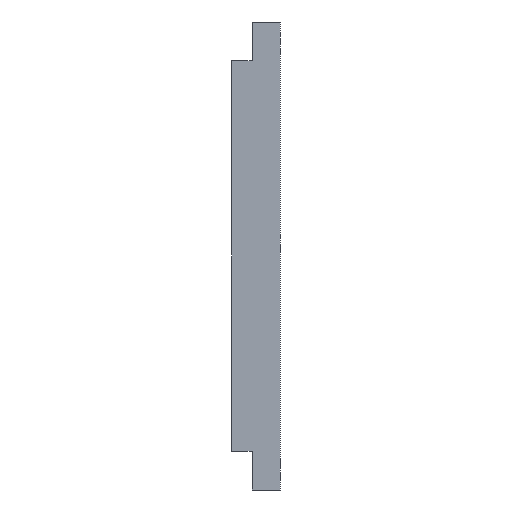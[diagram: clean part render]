
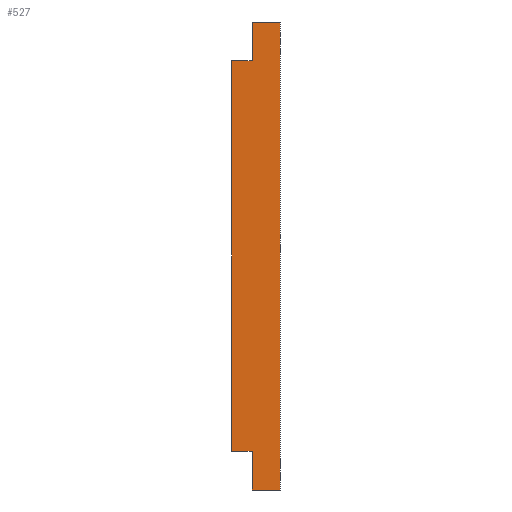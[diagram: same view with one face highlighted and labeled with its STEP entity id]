
A CAD part, left-side view. The second image highlights one B-rep face of the part: STEP entity #527.
In plain terms, the highlighted planar face has unit normal (-1, 0, 0).
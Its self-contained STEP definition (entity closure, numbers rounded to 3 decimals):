
#3 = CARTESIAN_POINT ( 'NONE',  ( -100., 10.3, -41.7 ) ) ;
#7 = ORIENTED_EDGE ( 'NONE', *, *, #2168, .F. ) ;
#38 = DIRECTION ( 'NONE',  ( 0., -1., 0. ) ) ;
#39 = DIRECTION ( 'NONE',  ( 0., 0., 1. ) ) ;
#82 = LINE ( 'NONE', #343, #1041 ) ;
#89 = ORIENTED_EDGE ( 'NONE', *, *, #1534, .T. ) ;
#92 = LINE ( 'NONE', #824, #1562 ) ;
#98 = EDGE_CURVE ( 'NONE', #1292, #328, #2531, .T. ) ;
#177 = VECTOR ( 'NONE', #1412, 1000. ) ;
#235 = DIRECTION ( 'NONE',  ( 0., 0., 1. ) ) ;
#237 = DIRECTION ( 'NONE',  ( 1., 0., 0. ) ) ;
#241 = ORIENTED_EDGE ( 'NONE', *, *, #2399, .T. ) ;
#328 = VERTEX_POINT ( 'NONE', #2268 ) ;
#343 = CARTESIAN_POINT ( 'NONE',  ( -100., 6., -50. ) ) ;
#419 = CARTESIAN_POINT ( 'NONE',  ( -100., 6., 50. ) ) ;
#421 = EDGE_CURVE ( 'NONE', #947, #1587, #92, .T. ) ;
#423 = CARTESIAN_POINT ( 'NONE',  ( -100., 6., 50. ) ) ;
#437 = ORIENTED_EDGE ( 'NONE', *, *, #98, .F. ) ;
#453 = LINE ( 'NONE', #419, #1833 ) ;
#486 = VECTOR ( 'NONE', #689, 1000. ) ;
#527 = ADVANCED_FACE ( 'NONE', ( #633 ), #853, .F. ) ;
#560 = VERTEX_POINT ( 'NONE', #663 ) ;
#626 = AXIS2_PLACEMENT_3D ( 'NONE', #423, #237, #1826 ) ;
#633 = FACE_OUTER_BOUND ( 'NONE', #2065, .T. ) ;
#635 = CARTESIAN_POINT ( 'NONE',  ( -100., 6., 50. ) ) ;
#638 = CARTESIAN_POINT ( 'NONE',  ( -100., 6., -50. ) ) ;
#647 = VERTEX_POINT ( 'NONE', #638 ) ;
#663 = CARTESIAN_POINT ( 'NONE',  ( -100., 0., -50. ) ) ;
#689 = DIRECTION ( 'NONE',  ( 0., -1., 0. ) ) ;
#695 = CARTESIAN_POINT ( 'NONE',  ( -100., 10.3, 41.7 ) ) ;
#818 = CARTESIAN_POINT ( 'NONE',  ( -100., 6., -41.7 ) ) ;
#824 = CARTESIAN_POINT ( 'NONE',  ( -100., 6., 50. ) ) ;
#853 = PLANE ( 'NONE',  #626 ) ;
#940 = DIRECTION ( 'NONE',  ( 0., -1., 0. ) ) ;
#947 = VERTEX_POINT ( 'NONE', #2027 ) ;
#960 = DIRECTION ( 'NONE',  ( 0., 0., 1. ) ) ;
#971 = LINE ( 'NONE', #695, #486 ) ;
#991 = DIRECTION ( 'NONE',  ( 0., 0., 1. ) ) ;
#1030 = CARTESIAN_POINT ( 'NONE',  ( -100., 6., 50. ) ) ;
#1039 = CARTESIAN_POINT ( 'NONE',  ( -100., 0., 50. ) ) ;
#1041 = VECTOR ( 'NONE', #940, 1000. ) ;
#1177 = VECTOR ( 'NONE', #235, 1000. ) ;
#1187 = ORIENTED_EDGE ( 'NONE', *, *, #1971, .F. ) ;
#1292 = VERTEX_POINT ( 'NONE', #1551 ) ;
#1350 = LINE ( 'NONE', #635, #2578 ) ;
#1354 = ORIENTED_EDGE ( 'NONE', *, *, #1934, .F. ) ;
#1412 = DIRECTION ( 'NONE',  ( 0., -1., 0. ) ) ;
#1442 = EDGE_CURVE ( 'NONE', #1292, #1455, #2436, .T. ) ;
#1455 = VERTEX_POINT ( 'NONE', #818 ) ;
#1521 = CARTESIAN_POINT ( 'NONE',  ( -100., 0., 50. ) ) ;
#1534 = EDGE_CURVE ( 'NONE', #560, #2275, #1998, .T. ) ;
#1551 = CARTESIAN_POINT ( 'NONE',  ( -100., 10.3, -41.7 ) ) ;
#1555 = ORIENTED_EDGE ( 'NONE', *, *, #1442, .T. ) ;
#1562 = VECTOR ( 'NONE', #39, 1000. ) ;
#1587 = VERTEX_POINT ( 'NONE', #1030 ) ;
#1726 = VECTOR ( 'NONE', #960, 1000. ) ;
#1826 = DIRECTION ( 'NONE',  ( 0., 0., -1. ) ) ;
#1833 = VECTOR ( 'NONE', #991, 1000. ) ;
#1934 = EDGE_CURVE ( 'NONE', #1587, #2275, #1350, .T. ) ;
#1971 = EDGE_CURVE ( 'NONE', #647, #1455, #453, .T. ) ;
#1998 = LINE ( 'NONE', #1039, #1177 ) ;
#2027 = CARTESIAN_POINT ( 'NONE',  ( -100., 6., 41.7 ) ) ;
#2065 = EDGE_LOOP ( 'NONE', ( #89, #1354, #2498, #7, #437, #1555, #1187, #241 ) ) ;
#2112 = CARTESIAN_POINT ( 'NONE',  ( -100., 10.3, 41.7 ) ) ;
#2168 = EDGE_CURVE ( 'NONE', #328, #947, #971, .T. ) ;
#2268 = CARTESIAN_POINT ( 'NONE',  ( -100., 10.3, 41.7 ) ) ;
#2275 = VERTEX_POINT ( 'NONE', #1521 ) ;
#2399 = EDGE_CURVE ( 'NONE', #647, #560, #82, .T. ) ;
#2436 = LINE ( 'NONE', #3, #177 ) ;
#2498 = ORIENTED_EDGE ( 'NONE', *, *, #421, .F. ) ;
#2531 = LINE ( 'NONE', #2112, #1726 ) ;
#2578 = VECTOR ( 'NONE', #38, 1000. ) ;
